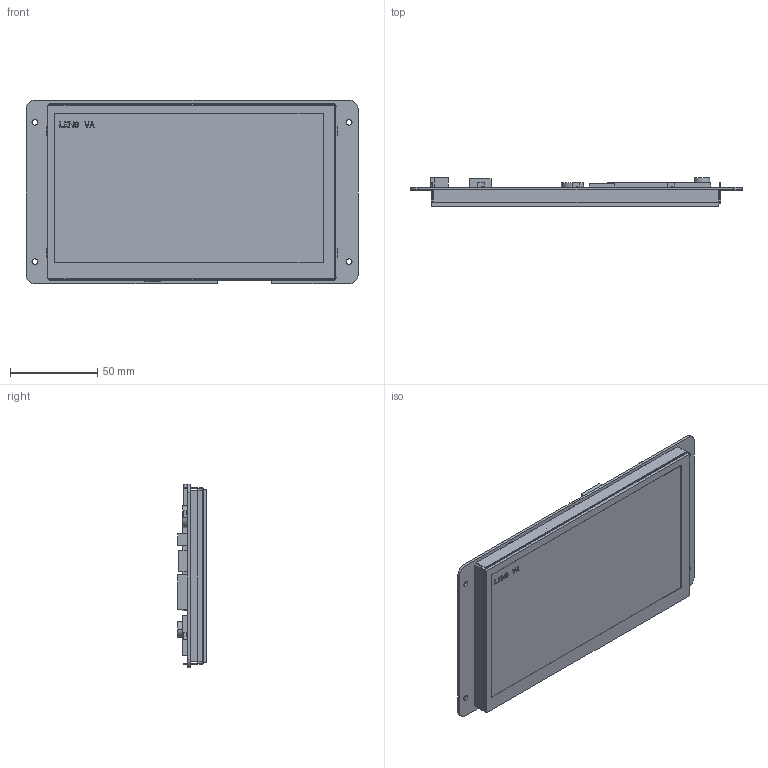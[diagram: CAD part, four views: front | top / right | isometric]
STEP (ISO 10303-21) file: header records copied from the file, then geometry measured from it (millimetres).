
FILE_DESCRIPTION((''),'2;1');
FILE_NAME('DMG10600S070-03W_ASM','2022-12-29T',('Administrator'),(''),'PRO/ENGINEER BY PARAMETRIC TECHNOLOGY CORPORATION, 2014320','PRO/ENGINEER BY PARAMETRIC TECHNOLOGY CORPORATION, 2014320','');
FILE_SCHEMA(('CONFIG_CONTROL_DESIGN','SHAPE_APPEARANCE_LAYERS_GROUPS'));
Length unit declared in the file: millimetre
Products named in the file (5): TK070011; LI10600T070IA7001; PCB221229; TPC070S0003G01V1; DMG10600S070-03W_ASM
Assembly tree (4 placements, depth 2):
  DMG10600S070-03W_ASM
    TK070011
    LI10600T070IA7001
    PCB221229
    TPC070S0003G01V1
Bounding box: 190.5 x 16.38 x 105.41 mm (x, y, z)
Volume: 120027.1 mm3; surface area: 124529.4 mm2
Topology: 4 solids, 4 shells, 442 faces, 1207 edges, 794 vertices
Faces by surface type: plane 345, cylinder 97
Entity records: 15616 total; most frequent: CARTESIAN_POINT 2452, ORIENTED_EDGE 2414, DIRECTION 2303, EDGE_CURVE 1207, VECTOR 1013, LINE 1013, VERTEX_POINT 794, AXIS2_PLACEMENT_3D 645
